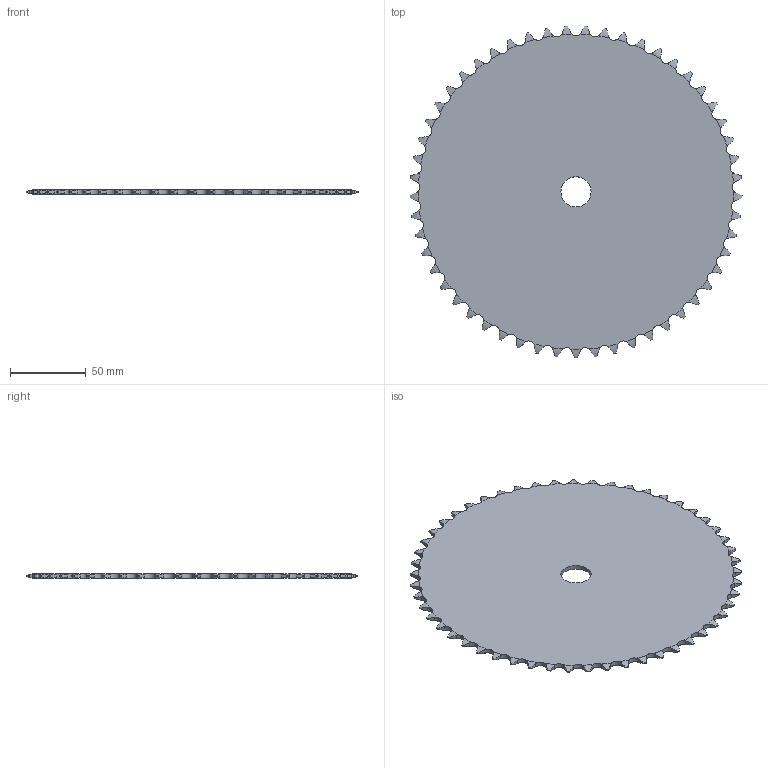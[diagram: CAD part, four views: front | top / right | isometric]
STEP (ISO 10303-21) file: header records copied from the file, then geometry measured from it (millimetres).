
FILE_DESCRIPTION((''),'2;1');
FILE_NAME('500-201-0053_PRT','2021-02-12T',('Brieden'),('Brieden'),'PRO/ENGINEER BY PARAMETRIC TECHNOLOGY CORPORATION, 2010160','PRO/ENGINEER BY PARAMETRIC TECHNOLOGY CORPORATION, 2010160','');
FILE_SCHEMA(('AUTOMOTIVE_DESIGN { 1 0 10303 214 1 1 1 1 }'));
Length unit declared in the file: millimetre
Products named in the file (1): 500-201-0053_PRT
Bounding box: 219.66 x 219.56 x 3 mm (x, y, z)
Volume: 103990.6 mm3; surface area: 72445.5 mm2
Topology: 1 solids, 1 shells, 322 faces, 960 edges, 640 vertices
Faces by surface type: cylinder 214, torus 106, plane 2
Entity records: 15766 total; most frequent: CARTESIAN_POINT 4679, ORIENTED_EDGE 1920, DIRECTION 1502, PRESENTATION_STYLE_ASSIGNMENT 961, STYLED_ITEM 961, CURVE_STYLE 960, EDGE_CURVE 960, AXIS2_PLACEMENT_3D 644
